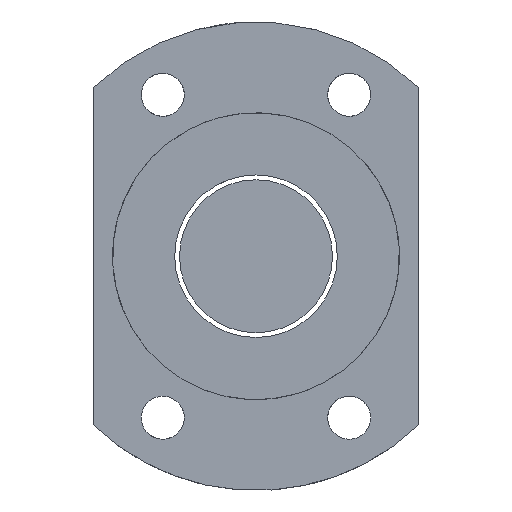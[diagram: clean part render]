
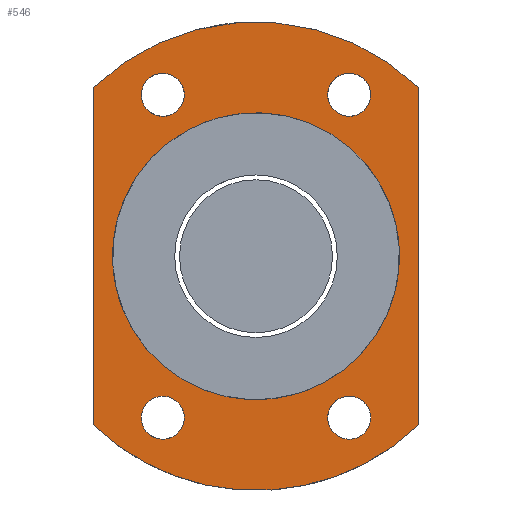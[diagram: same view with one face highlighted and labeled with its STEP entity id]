
A CAD part, left-side view. The second image highlights one B-rep face of the part: STEP entity #546.
In plain terms, the highlighted planar face has unit normal (-1, 0, 0).
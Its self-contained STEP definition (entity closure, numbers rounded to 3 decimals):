
#191=CARTESIAN_POINT('Vertex',(-10.,-17.,17.642)) ;
#205=CARTESIAN_POINT('Vertex',(-10.,17.,17.642)) ;
#208=CARTESIAN_POINT('Axis2P3D Location',(-10.,0.,0.)) ;
#273=CARTESIAN_POINT('Line Origine',(-10.,-17.,0.)) ;
#277=CARTESIAN_POINT('Vertex',(-10.,-17.,-17.642)) ;
#409=CARTESIAN_POINT('Line Origine',(-10.,17.,0.)) ;
#413=CARTESIAN_POINT('Vertex',(-10.,17.,-17.642)) ;
#428=CARTESIAN_POINT('Axis2P3D Location',(-10.,0.,66.513)) ;
#434=CARTESIAN_POINT('Control Point',(-10.,-17.,-17.642)) ;
#435=CARTESIAN_POINT('Control Point',(-10.,-15.254,-19.325)) ;
#436=CARTESIAN_POINT('Control Point',(-10.,-13.3,-20.791)) ;
#437=CARTESIAN_POINT('Control Point',(-10.,-11.173,-22.008)) ;
#438=CARTESIAN_POINT('Control Point',(-10.,-6.662,-23.888)) ;
#439=CARTESIAN_POINT('Control Point',(-10.,-1.83,-24.613)) ;
#440=CARTESIAN_POINT('Control Point',(-10.,0.62,-24.673)) ;
#441=CARTESIAN_POINT('Control Point',(-10.,5.482,-24.187)) ;
#442=CARTESIAN_POINT('Control Point',(-10.,10.079,-22.53)) ;
#443=CARTESIAN_POINT('Control Point',(-10.,12.263,-21.419)) ;
#444=CARTESIAN_POINT('Control Point',(-10.,14.488,-19.914)) ;
#445=CARTESIAN_POINT('Control Point',(-10.,16.474,-18.137)) ;
#446=CARTESIAN_POINT('Control Point',(-10.,16.651,-17.974)) ;
#447=CARTESIAN_POINT('Control Point',(-10.,16.827,-17.809)) ;
#448=CARTESIAN_POINT('Control Point',(-10.,17.,-17.642)) ;
#456=CARTESIAN_POINT('Axis2P3D Location',(-10.,9.75,-16.887)) ;
#460=CARTESIAN_POINT('Vertex',(-10.,11.725,-17.966)) ;
#462=CARTESIAN_POINT('Vertex',(-10.,7.775,-15.809)) ;
#465=CARTESIAN_POINT('Axis2P3D Location',(-10.,9.75,-16.887)) ;
#474=CARTESIAN_POINT('Axis2P3D Location',(-10.,-9.75,-16.887)) ;
#478=CARTESIAN_POINT('Vertex',(-10.,-11.725,-15.809)) ;
#480=CARTESIAN_POINT('Vertex',(-10.,-7.775,-17.966)) ;
#483=CARTESIAN_POINT('Axis2P3D Location',(-10.,-9.75,-16.887)) ;
#492=CARTESIAN_POINT('Axis2P3D Location',(-10.,-9.75,16.887)) ;
#496=CARTESIAN_POINT('Vertex',(-10.,-11.725,17.966)) ;
#498=CARTESIAN_POINT('Vertex',(-10.,-7.775,15.809)) ;
#501=CARTESIAN_POINT('Axis2P3D Location',(-10.,-9.75,16.887)) ;
#510=CARTESIAN_POINT('Axis2P3D Location',(-10.,9.75,16.887)) ;
#514=CARTESIAN_POINT('Vertex',(-10.,11.725,15.809)) ;
#516=CARTESIAN_POINT('Vertex',(-10.,7.775,17.966)) ;
#519=CARTESIAN_POINT('Axis2P3D Location',(-10.,9.75,16.887)) ;
#528=CARTESIAN_POINT('Axis2P3D Location',(-10.,0.,0.)) ;
#532=CARTESIAN_POINT('Vertex',(-10.,7.191,13.164)) ;
#534=CARTESIAN_POINT('Vertex',(-10.,-7.191,-13.164)) ;
#537=CARTESIAN_POINT('Axis2P3D Location',(-10.,0.,0.)) ;
#209=DIRECTION('Axis2P3D Direction',(1.,0.,0.)) ;
#274=DIRECTION('Vector Direction',(0.,0.,-1.)) ;
#410=DIRECTION('Vector Direction',(0.,0.,1.)) ;
#429=DIRECTION('Axis2P3D Direction',(-1.,0.,0.)) ;
#430=DIRECTION('Axis2P3D XDirection',(0.,1.,0.)) ;
#457=DIRECTION('Axis2P3D Direction',(-1.,0.,0.)) ;
#466=DIRECTION('Axis2P3D Direction',(-1.,0.,0.)) ;
#475=DIRECTION('Axis2P3D Direction',(-1.,0.,0.)) ;
#484=DIRECTION('Axis2P3D Direction',(-1.,0.,0.)) ;
#493=DIRECTION('Axis2P3D Direction',(-1.,0.,0.)) ;
#502=DIRECTION('Axis2P3D Direction',(-1.,0.,0.)) ;
#511=DIRECTION('Axis2P3D Direction',(-1.,0.,0.)) ;
#520=DIRECTION('Axis2P3D Direction',(-1.,0.,0.)) ;
#529=DIRECTION('Axis2P3D Direction',(-1.,0.,0.)) ;
#538=DIRECTION('Axis2P3D Direction',(-1.,0.,0.)) ;
#210=AXIS2_PLACEMENT_3D('Circle Axis2P3D',#208,#209,$) ;
#431=AXIS2_PLACEMENT_3D('Plane Axis2P3D',#428,#429,#430) ;
#458=AXIS2_PLACEMENT_3D('Circle Axis2P3D',#456,#457,$) ;
#467=AXIS2_PLACEMENT_3D('Circle Axis2P3D',#465,#466,$) ;
#476=AXIS2_PLACEMENT_3D('Circle Axis2P3D',#474,#475,$) ;
#485=AXIS2_PLACEMENT_3D('Circle Axis2P3D',#483,#484,$) ;
#494=AXIS2_PLACEMENT_3D('Circle Axis2P3D',#492,#493,$) ;
#503=AXIS2_PLACEMENT_3D('Circle Axis2P3D',#501,#502,$) ;
#512=AXIS2_PLACEMENT_3D('Circle Axis2P3D',#510,#511,$) ;
#521=AXIS2_PLACEMENT_3D('Circle Axis2P3D',#519,#520,$) ;
#530=AXIS2_PLACEMENT_3D('Circle Axis2P3D',#528,#529,$) ;
#539=AXIS2_PLACEMENT_3D('Circle Axis2P3D',#537,#538,$) ;
#451=ORIENTED_EDGE('',*,*,#212,.T.) ;
#452=ORIENTED_EDGE('',*,*,#415,.F.) ;
#453=ORIENTED_EDGE('',*,*,#449,.T.) ;
#454=ORIENTED_EDGE('',*,*,#279,.F.) ;
#471=ORIENTED_EDGE('',*,*,#464,.F.) ;
#472=ORIENTED_EDGE('',*,*,#469,.F.) ;
#489=ORIENTED_EDGE('',*,*,#482,.F.) ;
#490=ORIENTED_EDGE('',*,*,#487,.F.) ;
#507=ORIENTED_EDGE('',*,*,#500,.F.) ;
#508=ORIENTED_EDGE('',*,*,#505,.F.) ;
#525=ORIENTED_EDGE('',*,*,#518,.F.) ;
#526=ORIENTED_EDGE('',*,*,#523,.F.) ;
#543=ORIENTED_EDGE('',*,*,#536,.F.) ;
#544=ORIENTED_EDGE('',*,*,#541,.F.) ;
#473=FACE_BOUND('',#470,.T.) ;
#491=FACE_BOUND('',#488,.T.) ;
#509=FACE_BOUND('',#506,.T.) ;
#527=FACE_BOUND('',#524,.T.) ;
#545=FACE_BOUND('',#542,.T.) ;
#275=VECTOR('Line Direction',#274,1.) ;
#411=VECTOR('Line Direction',#410,1.) ;
#546=ADVANCED_FACE('NUT',(#455,#473,#491,#509,#527,#545),#432,.T.) ;
#433=B_SPLINE_CURVE_WITH_KNOTS('',5,(#434,#435,#436,#437,#438,#439,#440,#441,#442,#443,#444,#445,#446,#447,#448),.UNSPECIFIED.,.F.,.U.,(6,3,3,3,6),(0.,17.188,34.377,51.565,53.271),.UNSPECIFIED.) ;
#211=CIRCLE('generated circle',#210,24.5) ;
#459=CIRCLE('generated circle',#458,2.25) ;
#468=CIRCLE('generated circle',#467,2.25) ;
#477=CIRCLE('generated circle',#476,2.25) ;
#486=CIRCLE('generated circle',#485,2.25) ;
#495=CIRCLE('generated circle',#494,2.25) ;
#504=CIRCLE('generated circle',#503,2.25) ;
#513=CIRCLE('generated circle',#512,2.25) ;
#522=CIRCLE('generated circle',#521,2.25) ;
#531=CIRCLE('generated circle',#530,15.) ;
#540=CIRCLE('generated circle',#539,15.) ;
#212=EDGE_CURVE('',#192,#206,#211,.F.) ;
#279=EDGE_CURVE('',#192,#278,#276,.T.) ;
#415=EDGE_CURVE('',#414,#206,#412,.T.) ;
#449=EDGE_CURVE('',#414,#278,#433,.F.) ;
#464=EDGE_CURVE('',#461,#463,#459,.T.) ;
#469=EDGE_CURVE('',#463,#461,#468,.T.) ;
#482=EDGE_CURVE('',#479,#481,#477,.T.) ;
#487=EDGE_CURVE('',#481,#479,#486,.T.) ;
#500=EDGE_CURVE('',#497,#499,#495,.T.) ;
#505=EDGE_CURVE('',#499,#497,#504,.T.) ;
#518=EDGE_CURVE('',#515,#517,#513,.T.) ;
#523=EDGE_CURVE('',#517,#515,#522,.T.) ;
#536=EDGE_CURVE('',#533,#535,#531,.T.) ;
#541=EDGE_CURVE('',#535,#533,#540,.T.) ;
#450=EDGE_LOOP('',(#451,#452,#453,#454)) ;
#470=EDGE_LOOP('',(#471,#472)) ;
#488=EDGE_LOOP('',(#489,#490)) ;
#506=EDGE_LOOP('',(#507,#508)) ;
#524=EDGE_LOOP('',(#525,#526)) ;
#542=EDGE_LOOP('',(#543,#544)) ;
#455=FACE_OUTER_BOUND('',#450,.T.) ;
#276=LINE('Line',#273,#275) ;
#412=LINE('Line',#409,#411) ;
#432=PLANE('',#431) ;
#192=VERTEX_POINT('',#191) ;
#206=VERTEX_POINT('',#205) ;
#278=VERTEX_POINT('',#277) ;
#414=VERTEX_POINT('',#413) ;
#461=VERTEX_POINT('',#460) ;
#463=VERTEX_POINT('',#462) ;
#479=VERTEX_POINT('',#478) ;
#481=VERTEX_POINT('',#480) ;
#497=VERTEX_POINT('',#496) ;
#499=VERTEX_POINT('',#498) ;
#515=VERTEX_POINT('',#514) ;
#517=VERTEX_POINT('',#516) ;
#533=VERTEX_POINT('',#532) ;
#535=VERTEX_POINT('',#534) ;
